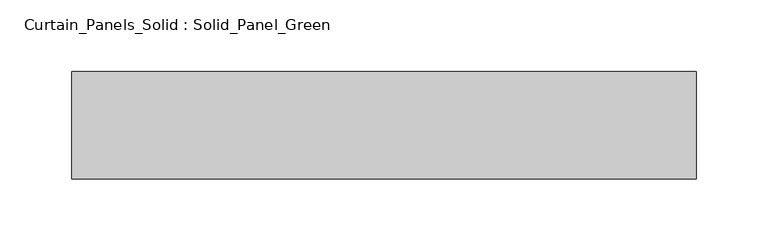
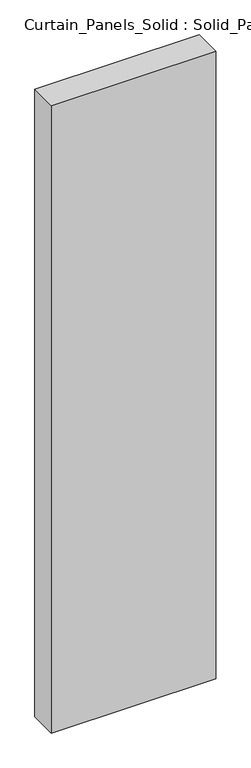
"""IFC4 building model written with IfcOpenShell, lengths in millimetres: plate geometry, Curtain_Panels_Solid : Solid_Panel_Green."""

from ifc_helpers import new_model, si_unit, origin, origin_with_axes, place, context, project, spatial, polyline, outline, extrude, source, transform, mapped, element, save


def curtain_panels_solid_solid_panel_green_e58bbc27(model_context):
    return source(origin(), model_context, "Body", "SweptSolid", [
        extrude(outline(polyline([(218.125, -25.0), (-218.125, -25.0), (-218.125, 50.0), (218.125, 50.0), (218.125, -25.0)])), origin_with_axes(), (0.0, 0.0, 1.0), 1760.0),
    ])


if __name__ == "__main__":
    model = new_model("IFC4")
    model_context = context("Model", 3, world=origin())
    ifc_project = project(units=[si_unit("LENGTHUNIT", "METRE", prefix="MILLI")], contexts=[model_context])
    site = spatial("IfcSite", under=ifc_project)
    building = spatial("IfcBuilding", under=site)
    placement = place(None, origin())
    curtain_panels_solid_solid_panel_green_shape = curtain_panels_solid_solid_panel_green_e58bbc27(model_context)
    element("IfcPlate", 1, ObjectType="Curtain_Panels_Solid : Solid_Panel_Green", at=placement, inside=building, context=model_context, shape_type="MappedRepresentation", body=[
        mapped(curtain_panels_solid_solid_panel_green_shape, transform((0.0, 0.0, 0.0), x_axis=(1.0, 0.0, 0.0), y_axis=(0.0, 1.0, 0.0), z_axis=(0.0, 0.0, 1.0))),
    ])
    save(model, "model.ifc")
